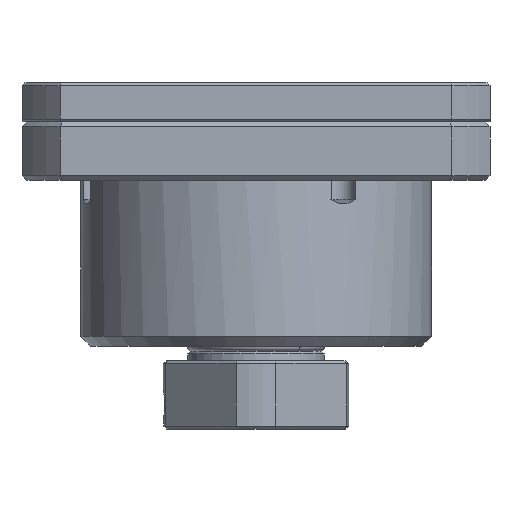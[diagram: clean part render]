
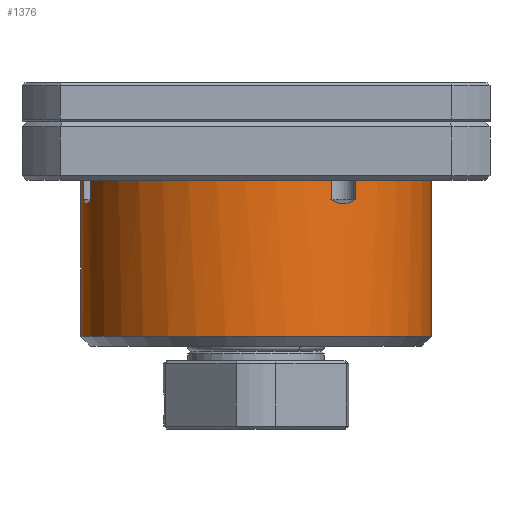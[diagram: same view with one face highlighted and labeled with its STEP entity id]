
A CAD part, front view. The second image highlights one B-rep face of the part: STEP entity #1376.
In plain terms, the highlighted cylindrical face has radius 18 mm (diameter 36 mm), a partial arc.
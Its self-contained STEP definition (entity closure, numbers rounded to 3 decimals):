
#33 = CIRCLE ( 'NONE', #4028, 18. ) ;
#245 = VERTEX_POINT ( 'NONE', #7985 ) ;
#271 = CARTESIAN_POINT ( 'NONE',  ( -17.693, -3.31, -6. ) ) ;
#384 = ORIENTED_EDGE ( 'NONE', *, *, #390, .F. ) ;
#390 = EDGE_CURVE ( 'NONE', #2220, #7089, #3432, .T. ) ;
#492 = CARTESIAN_POINT ( 'NONE',  ( 9.414, -15.343, -8.346 ) ) ;
#573 = DIRECTION ( 'NONE',  ( 1., 0., 0. ) ) ;
#652 = ORIENTED_EDGE ( 'NONE', *, *, #4912, .F. ) ;
#726 = B_SPLINE_CURVE_WITH_KNOTS ( 'NONE', 3,
 ( #935, #2909, #6844, #7612, #8201, #5708, #4987, #6894, #5735, #7659, #8123, #1740 ),
 .UNSPECIFIED., .F., .F.,
 ( 4, 2, 2, 2, 2, 4 ),
 ( 0., 0.001, 0.001, 0.002, 0.002, 0.003 ),
 .UNSPECIFIED. ) ;
#855 = VERTEX_POINT ( 'NONE', #5197 ) ;
#935 = CARTESIAN_POINT ( 'NONE',  ( -17.693, -3.31, -8. ) ) ;
#1012 = ORIENTED_EDGE ( 'NONE', *, *, #3414, .F. ) ;
#1032 = CARTESIAN_POINT ( 'NONE',  ( -17.693, -3.31, -4.287 ) ) ;
#1096 = EDGE_CURVE ( 'NONE', #3235, #7959, #4652, .T. ) ;
#1121 = CARTESIAN_POINT ( 'NONE',  ( 9.803, -15.098, -8.2 ) ) ;
#1132 = CARTESIAN_POINT ( 'NONE',  ( -16.978, -5.98, -8. ) ) ;
#1237 = B_SPLINE_CURVE_WITH_KNOTS ( 'NONE', 3,
 ( #3599, #2348, #2985, #7452, #3621, #8086, #4280, #492, #4939, #1121, #5592, #1744 ),
 .UNSPECIFIED., .F., .F.,
 ( 4, 2, 2, 2, 2, 4 ),
 ( 0., 0.001, 0.001, 0.002, 0.002, 0.003 ),
 .UNSPECIFIED. ) ;
#1376 = ADVANCED_FACE ( 'NONE', ( #5354 ), #3857, .T. ) ;
#1436 = LINE ( 'NONE', #7870, #6346 ) ;
#1712 = CARTESIAN_POINT ( 'NONE',  ( 10.17, -14.852, -8. ) ) ;
#1714 = CARTESIAN_POINT ( 'NONE',  ( 7.777, -16.233, -4.287 ) ) ;
#1726 = ORIENTED_EDGE ( 'NONE', *, *, #8155, .F. ) ;
#1740 = CARTESIAN_POINT ( 'NONE',  ( -16.978, -5.98, -8. ) ) ;
#1744 = CARTESIAN_POINT ( 'NONE',  ( 10.17, -14.852, -8. ) ) ;
#1752 = DIRECTION ( 'NONE',  ( 0., 0., 1. ) ) ;
#1786 = VECTOR ( 'NONE', #5500, 1000. ) ;
#1983 = DIRECTION ( 'NONE',  ( 0., 0., 1. ) ) ;
#2018 = ORIENTED_EDGE ( 'NONE', *, *, #7163, .T. ) ;
#2042 = CIRCLE ( 'NONE', #2448, 18. ) ;
#2206 = CARTESIAN_POINT ( 'NONE',  ( -16.978, -5.98, -6. ) ) ;
#2220 = VERTEX_POINT ( 'NONE', #2813 ) ;
#2348 = CARTESIAN_POINT ( 'NONE',  ( 7.975, -16.138, -8.103 ) ) ;
#2372 = CARTESIAN_POINT ( 'NONE',  ( 18., 0., -6. ) ) ;
#2448 = AXIS2_PLACEMENT_3D ( 'NONE', #3088, #7559, #7478 ) ;
#2566 = ORIENTED_EDGE ( 'NONE', *, *, #7854, .F. ) ;
#2572 = VECTOR ( 'NONE', #6491, 1000. ) ;
#2813 = CARTESIAN_POINT ( 'NONE',  ( 7.777, -16.233, -6. ) ) ;
#2852 = VECTOR ( 'NONE', #1752, 1000. ) ;
#2859 = AXIS2_PLACEMENT_3D ( 'NONE', #6207, #8033, #7840 ) ;
#2909 = CARTESIAN_POINT ( 'NONE',  ( -17.653, -3.527, -8.103 ) ) ;
#2985 = CARTESIAN_POINT ( 'NONE',  ( 8.174, -16.039, -8.2 ) ) ;
#3088 = CARTESIAN_POINT ( 'NONE',  ( 0., 0., -6. ) ) ;
#3181 = ORIENTED_EDGE ( 'NONE', *, *, #5044, .F. ) ;
#3235 = VERTEX_POINT ( 'NONE', #5870 ) ;
#3414 = EDGE_CURVE ( 'NONE', #7089, #4461, #1237, .T. ) ;
#3432 = LINE ( 'NONE', #1714, #4234 ) ;
#3508 = CARTESIAN_POINT ( 'NONE',  ( 10.17, -14.852, -6. ) ) ;
#3599 = CARTESIAN_POINT ( 'NONE',  ( 7.777, -16.233, -8. ) ) ;
#3621 = CARTESIAN_POINT ( 'NONE',  ( 8.791, -15.709, -8.406 ) ) ;
#3654 = DIRECTION ( 'NONE',  ( 0., 0., 1. ) ) ;
#3670 = AXIS2_PLACEMENT_3D ( 'NONE', #5188, #1983, #5835 ) ;
#3753 = EDGE_CURVE ( 'NONE', #7959, #4086, #2042, .T. ) ;
#3833 = CARTESIAN_POINT ( 'NONE',  ( -18., 0., -6. ) ) ;
#3857 = CYLINDRICAL_SURFACE ( 'NONE', #3670, 18. ) ;
#3887 = CARTESIAN_POINT ( 'NONE',  ( 18., 0., 29.63 ) ) ;
#4028 = AXIS2_PLACEMENT_3D ( 'NONE', #8156, #4370, #573 ) ;
#4084 = EDGE_CURVE ( 'NONE', #7679, #7823, #4761, .T. ) ;
#4086 = VERTEX_POINT ( 'NONE', #271 ) ;
#4129 = DIRECTION ( 'NONE',  ( 0., 0., 1. ) ) ;
#4234 = VECTOR ( 'NONE', #5805, 1000. ) ;
#4280 = CARTESIAN_POINT ( 'NONE',  ( 9.21, -15.466, -8.392 ) ) ;
#4370 = DIRECTION ( 'NONE',  ( 0., 0., 1. ) ) ;
#4403 = LINE ( 'NONE', #3887, #7590 ) ;
#4461 = VERTEX_POINT ( 'NONE', #1712 ) ;
#4471 = AXIS2_PLACEMENT_3D ( 'NONE', #7480, #3654, #8105 ) ;
#4483 = ORIENTED_EDGE ( 'NONE', *, *, #7809, .T. ) ;
#4565 = VERTEX_POINT ( 'NONE', #1132 ) ;
#4652 = LINE ( 'NONE', #6570, #2852 ) ;
#4761 = CIRCLE ( 'NONE', #2859, 18. ) ;
#4912 = EDGE_CURVE ( 'NONE', #4461, #7679, #1436, .T. ) ;
#4939 = CARTESIAN_POINT ( 'NONE',  ( 9.512, -15.282, -8.314 ) ) ;
#4987 = CARTESIAN_POINT ( 'NONE',  ( -17.322, -4.893, -8.392 ) ) ;
#5044 = EDGE_CURVE ( 'NONE', #855, #4565, #726, .T. ) ;
#5103 = CIRCLE ( 'NONE', #4471, 18. ) ;
#5188 = CARTESIAN_POINT ( 'NONE',  ( 0., 0., 29.63 ) ) ;
#5192 = LINE ( 'NONE', #1032, #1786 ) ;
#5197 = CARTESIAN_POINT ( 'NONE',  ( -17.693, -3.31, -8. ) ) ;
#5354 = FACE_OUTER_BOUND ( 'NONE', #5974, .T. ) ;
#5500 = DIRECTION ( 'NONE',  ( 0., 0., -1. ) ) ;
#5592 = CARTESIAN_POINT ( 'NONE',  ( 9.989, -14.976, -8.103 ) ) ;
#5708 = CARTESIAN_POINT ( 'NONE',  ( -17.355, -4.775, -8.406 ) ) ;
#5735 = CARTESIAN_POINT ( 'NONE',  ( -17.223, -5.233, -8.314 ) ) ;
#5744 = ORIENTED_EDGE ( 'NONE', *, *, #4084, .F. ) ;
#5747 = CARTESIAN_POINT ( 'NONE',  ( 7.777, -16.233, -8. ) ) ;
#5794 = LINE ( 'NONE', #5856, #2572 ) ;
#5805 = DIRECTION ( 'NONE',  ( 0., 0., -1. ) ) ;
#5835 = DIRECTION ( 'NONE',  ( 1., 0., 0. ) ) ;
#5856 = CARTESIAN_POINT ( 'NONE',  ( -16.978, -5.98, -4.287 ) ) ;
#5870 = CARTESIAN_POINT ( 'NONE',  ( -18., 0., -22. ) ) ;
#5974 = EDGE_LOOP ( 'NONE', ( #7198, #4483, #2018, #5744, #652, #1012, #384, #2566, #7286, #3181, #1726, #8098 ) ) ;
#6207 = CARTESIAN_POINT ( 'NONE',  ( 0., 0., -6. ) ) ;
#6346 = VECTOR ( 'NONE', #4129, 1000. ) ;
#6491 = DIRECTION ( 'NONE',  ( 0., 0., 1. ) ) ;
#6570 = CARTESIAN_POINT ( 'NONE',  ( -18., 0., 29.63 ) ) ;
#6805 = VERTEX_POINT ( 'NONE', #2206 ) ;
#6844 = CARTESIAN_POINT ( 'NONE',  ( -17.608, -3.744, -8.2 ) ) ;
#6894 = CARTESIAN_POINT ( 'NONE',  ( -17.256, -5.122, -8.346 ) ) ;
#7089 = VERTEX_POINT ( 'NONE', #5747 ) ;
#7163 = EDGE_CURVE ( 'NONE', #245, #7823, #4403, .T. ) ;
#7198 = ORIENTED_EDGE ( 'NONE', *, *, #1096, .F. ) ;
#7286 = ORIENTED_EDGE ( 'NONE', *, *, #8036, .F. ) ;
#7452 = CARTESIAN_POINT ( 'NONE',  ( 8.581, -15.825, -8.352 ) ) ;
#7478 = DIRECTION ( 'NONE',  ( 1., 0., 0. ) ) ;
#7480 = CARTESIAN_POINT ( 'NONE',  ( 0., 0., -22. ) ) ;
#7559 = DIRECTION ( 'NONE',  ( 0., 0., 1. ) ) ;
#7590 = VECTOR ( 'NONE', #7704, 1000. ) ;
#7612 = CARTESIAN_POINT ( 'NONE',  ( -17.506, -4.193, -8.352 ) ) ;
#7659 = CARTESIAN_POINT ( 'NONE',  ( -17.121, -5.561, -8.2 ) ) ;
#7679 = VERTEX_POINT ( 'NONE', #3508 ) ;
#7704 = DIRECTION ( 'NONE',  ( 0., 0., 1. ) ) ;
#7809 = EDGE_CURVE ( 'NONE', #3235, #245, #5103, .T. ) ;
#7823 = VERTEX_POINT ( 'NONE', #2372 ) ;
#7840 = DIRECTION ( 'NONE',  ( 1., 0., 0. ) ) ;
#7854 = EDGE_CURVE ( 'NONE', #6805, #2220, #33, .T. ) ;
#7870 = CARTESIAN_POINT ( 'NONE',  ( 10.17, -14.852, -4.287 ) ) ;
#7959 = VERTEX_POINT ( 'NONE', #3833 ) ;
#7985 = CARTESIAN_POINT ( 'NONE',  ( 18., 0., -22. ) ) ;
#8033 = DIRECTION ( 'NONE',  ( 0., 0., 1. ) ) ;
#8036 = EDGE_CURVE ( 'NONE', #4565, #6805, #5794, .T. ) ;
#8086 = CARTESIAN_POINT ( 'NONE',  ( 9.105, -15.528, -8.406 ) ) ;
#8098 = ORIENTED_EDGE ( 'NONE', *, *, #3753, .F. ) ;
#8105 = DIRECTION ( 'NONE',  ( -1., 0., 0. ) ) ;
#8123 = CARTESIAN_POINT ( 'NONE',  ( -17.051, -5.772, -8.103 ) ) ;
#8155 = EDGE_CURVE ( 'NONE', #4086, #855, #5192, .T. ) ;
#8156 = CARTESIAN_POINT ( 'NONE',  ( 0., 0., -6. ) ) ;
#8201 = CARTESIAN_POINT ( 'NONE',  ( -17.449, -4.426, -8.406 ) ) ;
